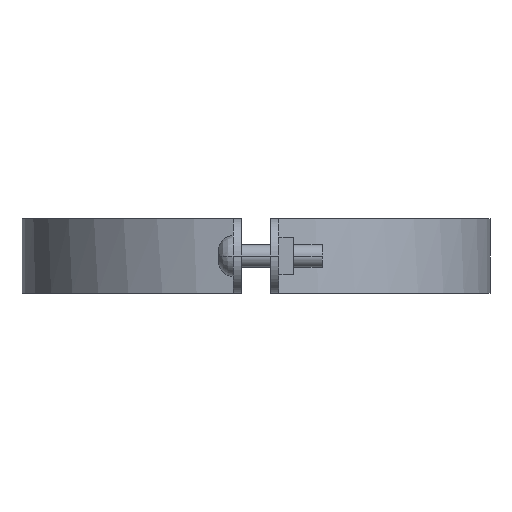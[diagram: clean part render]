
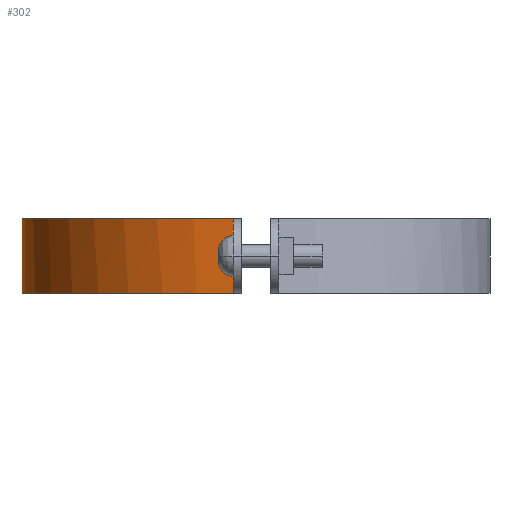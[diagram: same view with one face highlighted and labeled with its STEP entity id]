
A CAD part, left-side view. The second image highlights one B-rep face of the part: STEP entity #302.
In plain terms, the highlighted free-form (B-spline) face has degree [3, 1] with [4, 2] control points.
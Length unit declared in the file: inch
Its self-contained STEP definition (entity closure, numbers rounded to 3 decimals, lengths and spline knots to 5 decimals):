
#302=ADVANCED_FACE('',(#578),#579,.T.);
#578=FACE_OUTER_BOUND('',#1267,.T.);
#579=B_SPLINE_SURFACE_WITH_KNOTS('',3,1,((#1268,#1269),(#1270,#1271),(#1272,#1273),(#1274,#1275)),.UNSPECIFIED.,.F.,.F.,.F.,(4,4),(2,2),(-1.0,-0.0),(0.0,1.25),.UNSPECIFIED.);
#1267=EDGE_LOOP('',(#1909,#1910,#1911,#1912));
#1268=CARTESIAN_POINT('',(4.62467,7.6208,0.0));
#1269=CARTESIAN_POINT('',(4.62467,7.6208,1.25));
#1270=CARTESIAN_POINT('',(2.59401,7.6208,0.0));
#1271=CARTESIAN_POINT('',(2.59401,7.6208,1.25));
#1272=CARTESIAN_POINT('',(0.89474,6.07993,0.0));
#1273=CARTESIAN_POINT('',(0.89474,6.07993,1.25));
#1274=CARTESIAN_POINT('',(0.6967,4.05895,0.0));
#1275=CARTESIAN_POINT('',(0.6967,4.05895,1.25));
#1909=ORIENTED_EDGE('',*,*,#2118,.T.);
#1910=ORIENTED_EDGE('',*,*,#2210,.F.);
#1911=ORIENTED_EDGE('',*,*,#2074,.T.);
#1912=ORIENTED_EDGE('',*,*,#2261,.T.);
#2074=EDGE_CURVE('',#2379,#2376,#2380,.T.);
#2118=EDGE_CURVE('',#2455,#2452,#2456,.T.);
#2210=EDGE_CURVE('',#2379,#2452,#2589,.T.);
#2261=EDGE_CURVE('',#2376,#2455,#2648,.T.);
#2376=VERTEX_POINT('',#2857);
#2379=VERTEX_POINT('',#2861);
#2380=B_SPLINE_CURVE_WITH_KNOTS('',3,(#2862,#2863,#2864,#2865),.UNSPECIFIED.,.F.,.F.,(4,4),(-1.0,-0.0),.UNSPECIFIED.);
#2452=VERTEX_POINT('',#2985);
#2455=VERTEX_POINT('',#2989);
#2456=B_SPLINE_CURVE_WITH_KNOTS('',3,(#2990,#2991,#2992,#2993),.UNSPECIFIED.,.F.,.F.,(4,4),(0.0,1.0),.UNSPECIFIED.);
#2589=LINE('',#3273,#3274);
#2648=LINE('',#3381,#3382);
#2857=CARTESIAN_POINT('',(0.6967,4.05895,0.00011));
#2861=CARTESIAN_POINT('',(4.62467,7.6208,0.00011));
#2862=CARTESIAN_POINT('',(4.62467,7.6208,0.00011));
#2863=CARTESIAN_POINT('',(2.59401,7.6208,0.00011));
#2864=CARTESIAN_POINT('',(0.89474,6.07993,0.00011));
#2865=CARTESIAN_POINT('',(0.6967,4.05895,0.00011));
#2985=CARTESIAN_POINT('',(4.62467,7.6208,1.24992));
#2989=CARTESIAN_POINT('',(0.6967,4.05895,1.24992));
#2990=CARTESIAN_POINT('',(0.6967,4.05895,1.24992));
#2991=CARTESIAN_POINT('',(0.89474,6.07993,1.24992));
#2992=CARTESIAN_POINT('',(2.59401,7.6208,1.24992));
#2993=CARTESIAN_POINT('',(4.62467,7.6208,1.24992));
#3273=CARTESIAN_POINT('',(4.62467,7.6208,0.0));
#3274=VECTOR('',#3523,1.0);
#3381=CARTESIAN_POINT('',(0.6967,4.05895,0.0));
#3382=VECTOR('',#3548,1.0);
#3523=DIRECTION('',(0.0,0.0,1.0));
#3548=DIRECTION('',(0.0,0.0,1.0));
